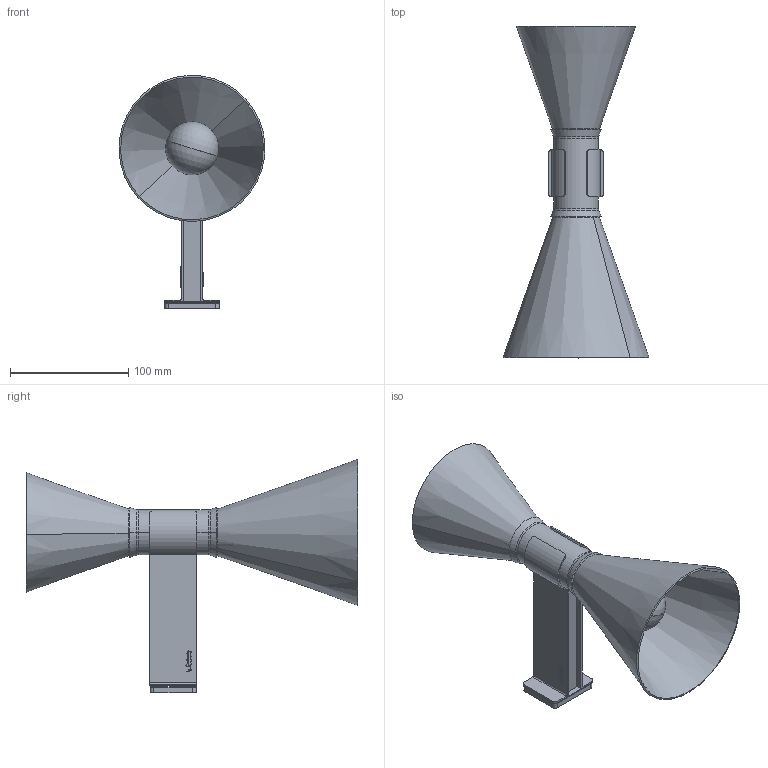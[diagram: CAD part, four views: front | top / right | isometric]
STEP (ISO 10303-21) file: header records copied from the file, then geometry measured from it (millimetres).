
FILE_DESCRIPTION (( 'STEP AP203' ), '1' );
FILE_NAME ('800AMMMDD311-ADM_mini.STEP', '2023-01-20T08:50:09', ( '' ), ( '' ), 'SwSTEP 2.0', 'SolidWorks 2016', '' );
FILE_SCHEMA (( 'CONFIG_CONTROL_DESIGN' ));
Length unit declared in the file: millimetre
Products named in the file (8): 051AMM700100-corpo_Al_pressofuso_default; E14 incandescent bulb_D‚faut; 051AMM700200-guancia_dx_Al_pressofuso_default; 010AMM700700-cono_piccolo; 051AMM700400-staffa_a_muro; 010AMM700800-cono_grande; 051AMM700300-guancia_sx_Al_pressofuso; 800AMMMDD311-ADM_mini
Assembly tree (8 placements, depth 2):
  800AMMMDD311-ADM_mini
    051AMM700100-corpo_Al_pressofuso_default
    051AMM700200-guancia_dx_Al_pressofuso_default
    051AMM700300-guancia_sx_Al_pressofuso
    051AMM700400-staffa_a_muro
    010AMM700700-cono_piccolo
    010AMM700800-cono_grande
    E14 incandescent bulb_D‚faut  x2
Bounding box: 123.64 x 281.1 x 197.52 mm (x, y, z)
Volume: 258467.1 mm3; surface area: 208974.8 mm2
Topology: 8 solids, 10 shells, 399 faces, 1016 edges, 650 vertices
Faces by surface type: bspline 143, plane 110, cylinder 68, cone 38, torus 32, sphere 8
Entity records: 15415 total; most frequent: CARTESIAN_POINT 6249, ORIENTED_EDGE 1932, DIRECTION 1352, EDGE_CURVE 966, VERTEX_POINT 620, AXIS2_PLACEMENT_3D 482, EDGE_LOOP 418, LINE 388
